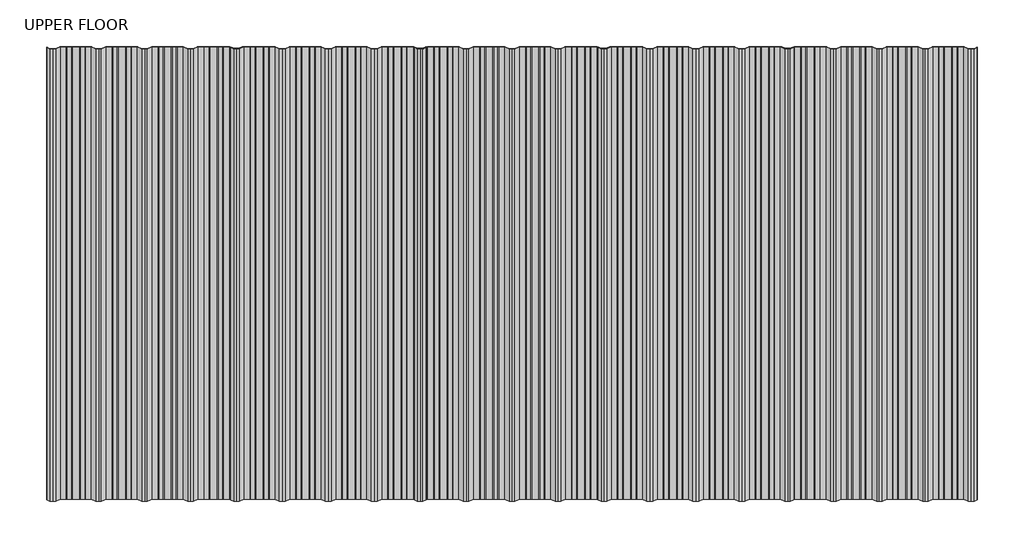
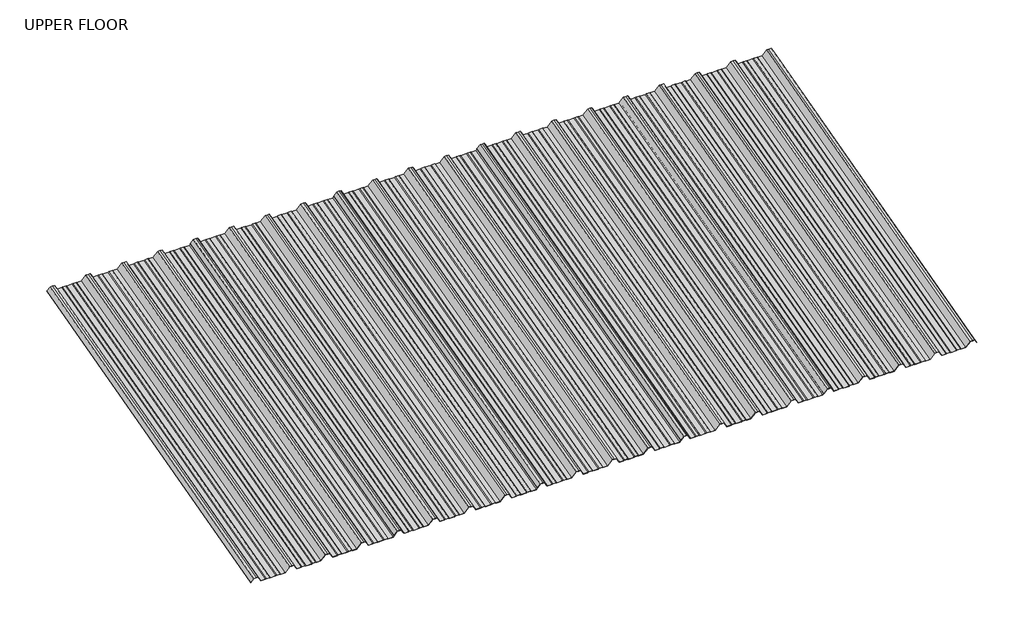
# One storey: 5 beams.
"""IFC4 building model written with IfcOpenShell, lengths in millimetres."""

import ifcopenshell
import ifcopenshell.guid

model = None  # the IFC model being written
_history = None  # IfcOwnerHistory: only IFC2X3 demands one
_inside = {}  # id of a spatial element -> (the spatial element, [elements in it])
_under = {}  # id of a project, library or spatial element -> (it, [spatial elements below it])
_declared = {}  # id of a project -> (the project, [libraries it declares])
_typed = {}  # id of a type object -> (the type object, [elements of that type])
_made_of = {}  # id of a material, layer set ... -> (it, [elements and type objects made of it])


def new_model(schema):
    """Start an empty IFC model of exactly this schema.

    Asked for "IFC4X3", IfcOpenShell would pick the latest addendum, in which some entities
    have other attributes; the version numbers below select the first issue.
    IFC2X3 requires an IfcOwnerHistory on every rooted entity: one is made here for all.
    """
    global model, _history
    if schema == "IFC4X3":
        model = ifcopenshell.file(schema_version=(4, 3, 0, 0))
    else:
        model = ifcopenshell.file(schema=schema)
    _inside.clear()
    _under.clear()
    _declared.clear()
    _typed.clear()
    _made_of.clear()
    _history = None
    if model.schema == "IFC2X3":
        org = make("IfcOrganization", Name="unknown")
        user = make(
            "IfcPersonAndOrganization",
            ThePerson=make("IfcPerson", FamilyName="unknown"),
            TheOrganization=org,
        )
        app = make(
            "IfcApplication",
            ApplicationDeveloper=org,
            Version="unknown",
            ApplicationFullName="unknown",
            ApplicationIdentifier="unknown",
        )
        _history = make(
            "IfcOwnerHistory",
            OwningUser=user,
            OwningApplication=app,
            ChangeAction="ADDED",
            CreationDate=0,
        )
    return model


def make(cls, **values):
    """One entity of the class cls with the attributes given. An attribute that is None is left unset."""
    return model.create_entity(
        cls, **{name: value for name, value in values.items() if value is not None}
    )


def rooted(cls, **values):
    """An entity with a GlobalId (a new one), such as an element, a storey or a relation."""
    return make(cls, GlobalId=ifcopenshell.guid.new(), OwnerHistory=_history, **values)


def si_unit(unit_type, name, prefix=None):
    """IfcSIUnit, for example si_unit("LENGTHUNIT", "METRE", prefix="MILLI")."""
    return make("IfcSIUnit", UnitType=unit_type, Prefix=prefix, Name=name)


def assignment(units):
    """IfcUnitAssignment: the units of a project."""
    return None if units is None else make("IfcUnitAssignment", Units=units)


def point(xyz):
    """IfcCartesianPoint."""
    return None if xyz is None else make("IfcCartesianPoint", Coordinates=xyz)


def direction(xyz):
    """IfcDirection."""
    return None if xyz is None else make("IfcDirection", DirectionRatios=xyz)


def frame(location, z_axis=None, x_axis=None):
    """IfcAxis2Placement3D, a coordinate frame: its origin and axes. An axis left out is left unset."""
    return make(
        "IfcAxis2Placement3D",
        Location=point(location),
        Axis=direction(z_axis),
        RefDirection=direction(x_axis),
    )


def frame_2d(location, x_axis=None):
    """IfcAxis2Placement2D, a coordinate frame in the plane: its origin and x axis."""
    return make(
        "IfcAxis2Placement2D", Location=point(location), RefDirection=direction(x_axis)
    )


def origin():
    """The frame at (0, 0, 0) with its axes left unset."""
    return frame((0.0, 0.0, 0.0))


def place(relative_to, where):
    """IfcLocalPlacement: puts the frame where relative to a parent placement (None: the world)."""
    return make(
        "IfcLocalPlacement", PlacementRelTo=relative_to, RelativePlacement=where
    )


def context(
    kind, dimensions, precision=None, world=None, true_north=None, identifier=None
):
    """IfcGeometricRepresentationContext, for example the 3D "Model" context."""
    return make(
        "IfcGeometricRepresentationContext",
        ContextIdentifier=identifier,
        ContextType=kind,
        CoordinateSpaceDimension=dimensions,
        Precision=precision,
        WorldCoordinateSystem=world,
        TrueNorth=true_north,
    )


def project(units=None, contexts=None):
    """IfcProject with its units and contexts."""
    return rooted(
        "IfcProject",
        Name="project",
        RepresentationContexts=contexts,
        UnitsInContext=assignment(units),
    )


def spatial(cls, under=None, at=None, **own):
    """A site, building, storey or space (cls), placed at a placement, below another one or the project."""
    s = rooted(cls, ObjectPlacement=at, **own)
    if under is not None:
        _under.setdefault(under.id(), (under, []))[1].append(s)
    return s


def polyline(points):
    """IfcPolyline through the points."""
    return make("IfcPolyline", Points=[point(p) for p in points])


def circle_curve(where, radius):
    """IfcCircle in the frame where."""
    return make("IfcCircle", Position=where, Radius=radius)


def trimmed(basis, trim1, trim2, sense, master):
    """IfcTrimmedCurve: the piece of a basis curve between two trims."""
    return make(
        "IfcTrimmedCurve",
        BasisCurve=basis,
        Trim1=trim1,
        Trim2=trim2,
        SenseAgreement=sense,
        MasterRepresentation=master,
    )


def segment(curve, same_sense, transition):
    """IfcCompositeCurveSegment."""
    return make(
        "IfcCompositeCurveSegment",
        Transition=transition,
        SameSense=same_sense,
        ParentCurve=curve,
    )


def composite_curve(segments, self_intersect=None):
    """IfcCompositeCurve: segments joined end to end."""
    return make("IfcCompositeCurve", Segments=segments, SelfIntersect=self_intersect)


def outline(outer, holes=None, kind="AREA"):
    """IfcArbitraryClosedProfileDef: a profile drawn as a closed curve; with holes, ...WithVoids."""
    if holes is None:
        return make("IfcArbitraryClosedProfileDef", ProfileType=kind, OuterCurve=outer)
    return make(
        "IfcArbitraryProfileDefWithVoids",
        ProfileType=kind,
        OuterCurve=outer,
        InnerCurves=holes,
    )


def extrude(swept, where, along, depth):
    """IfcExtrudedAreaSolid: the profile swept, set in the frame where, extruded along a direction by depth."""
    return make(
        "IfcExtrudedAreaSolid",
        SweptArea=swept,
        Position=where,
        ExtrudedDirection=direction(along),
        Depth=depth,
    )


def shape(context_of_items, identifier, shape_type, items):
    """IfcShapeRepresentation: the items that make up one representation, for example the "Body"."""
    return make(
        "IfcShapeRepresentation",
        ContextOfItems=context_of_items,
        RepresentationIdentifier=identifier,
        RepresentationType=shape_type,
        Items=items,
    )


def source(mapping_origin, context_of_items, identifier, shape_type, items):
    """IfcRepresentationMap: a shape defined once, which mapped items show again and again."""
    return make(
        "IfcRepresentationMap",
        MappingOrigin=mapping_origin,
        MappedRepresentation=shape(context_of_items, identifier, shape_type, items),
    )


def transform(
    local_origin,
    x_axis=None,
    y_axis=None,
    z_axis=None,
    scale=None,
    scale2=None,
    scale3=None,
    uniform=True,
):
    """IfcCartesianTransformationOperator3D, or its non-uniform kind. x_axis, y_axis, z_axis: its Axis1, 2, 3."""
    if uniform:
        return make(
            "IfcCartesianTransformationOperator3D",
            Axis1=direction(x_axis),
            Axis2=direction(y_axis),
            LocalOrigin=point(local_origin),
            Scale=scale,
            Axis3=direction(z_axis),
        )
    return make(
        "IfcCartesianTransformationOperator3DnonUniform",
        Axis1=direction(x_axis),
        Axis2=direction(y_axis),
        LocalOrigin=point(local_origin),
        Scale=scale,
        Axis3=direction(z_axis),
        Scale2=scale2,
        Scale3=scale3,
    )


def mapped(mapping_source, mapping_target):
    """IfcMappedItem: shows the shape of a source again, moved by a transform."""
    return make(
        "IfcMappedItem", MappingSource=mapping_source, MappingTarget=mapping_target
    )


def made_of(thing, what):
    """Note that an element or type object is made of a material, layer set ...; save() writes the relation."""
    if what is not None:
        _made_of.setdefault(what.id(), (what, []))[1].append(thing)
    return thing


def element(
    cls,
    number,
    at=None,
    inside=None,
    cuts=None,
    type_object=None,
    material=None,
    context=None,
    identifier="Body",
    shape_type=None,
    held_by="IfcProductDefinitionShape",
    body=None,
    shapes=None,
    **own,
):
    """One element of the class cls, such as IfcWall. Its Tag is "e" and its number.

    at: its placement. inside: the storey or other place that contains it. cuts: it is an
    opening in that element (IfcRelVoidsElement). A single representation is given by context,
    identifier, shape_type and body (its items); several are given by shapes. held_by: the class
    of the entity that holds the representations. save() writes the other relations.
    """
    e = rooted(cls, Tag="e%d" % number, ObjectPlacement=at, **own)
    if body is not None:
        shapes = [shape(context, identifier, shape_type, body)]
    if shapes is not None:
        e.Representation = make(held_by, Representations=shapes)
    if inside is not None:
        _inside.setdefault(inside.id(), (inside, []))[1].append(e)
    if cuts is not None:
        rooted(
            "IfcRelVoidsElement", RelatingBuildingElement=cuts, RelatedOpeningElement=e
        )
    if type_object is not None:
        _typed.setdefault(type_object.id(), (type_object, []))[1].append(e)
    return made_of(e, material)


def aggregate(whole, parts):
    """IfcRelAggregates: a whole, such as a stair, and the parts it consists of."""
    return rooted("IfcRelAggregates", RelatingObject=whole, RelatedObjects=parts)


def save(model, path):
    """Write the relations noted so far, then the file.

    IfcRelAggregates (storeys below a building ...), IfcRelContainedInSpatialStructure (elements
    in a storey), IfcRelDefinesByType, IfcRelAssociatesMaterial and IfcRelDeclares: one each for
    every whole, place, type object, material and project.
    """
    for whole, parts in _under.values():
        aggregate(whole, parts)
    for where, things in _inside.values():
        rooted(
            "IfcRelContainedInSpatialStructure",
            RelatedElements=things,
            RelatingStructure=where,
        )
    for kind, things in _typed.values():
        rooted("IfcRelDefinesByType", RelatedObjects=things, RelatingType=kind)
    for what, things in _made_of.values():
        rooted("IfcRelAssociatesMaterial", RelatedObjects=things, RelatingMaterial=what)
    for by, libraries in _declared.values():
        rooted("IfcRelDeclares", RelatingContext=by, RelatedDefinitions=libraries)
    model.write(path)


def mc700_85815ef7(model_context):
    return source(origin(), model_context, "Body", "SweptSolid", [
        extrude(outline(composite_curve([segment(polyline([(-29.07451, -24.7896475), (-11.0, 6.2103525), (0.0, 6.2103525), (11.0, 6.2103525), (23.5921889, -15.3867949)]), True, "CONTINUOUS"), segment(trimmed(circle_curve(frame_2d((23.160246, -15.6386387)), 0.5), [point((23.5921889, -15.3867949))], [point((22.728303, -15.8904825))], False, "CARTESIAN"), True, "CONTINUOUS"), segment(polyline([(22.728303, -15.8904825), (10.4254884, 5.2103525), (0.0, 5.2103525), (-10.4254884, 5.2103525), (-28.4999984, -25.7896475), (-51.197636, -25.7896475), (-54.4126802, -23.7494212), (-70.8406714, -23.7494212), (-75.2209891, -25.7896475), (-102.2790109, -25.7896475), (-106.6593286, -23.7494212), (-123.0873198, -23.7494212), (-126.302364, -25.7896475), (-149.0000016, -25.7896475), (-167.0745116, 5.2103525), (-177.5, 5.2103525), (-187.9254884, 5.2103525), (-205.9999984, -25.7896475), (-228.697636, -25.7896475), (-231.9126802, -23.7494212), (-248.3406714, -23.7494212), (-252.7209891, -25.7896475), (-279.7790109, -25.7896475), (-284.1593286, -23.7494212), (-300.5873198, -23.7494212), (-303.802364, -25.7896475), (-326.5000016, -25.7896475), (-344.5745116, 5.2103525), (-355.0, 5.2103525), (-365.4254884, 5.2103525), (-383.4999984, -25.7896475), (-406.197636, -25.7896475), (-409.4126802, -23.7494212), (-425.8406714, -23.7494212), (-430.2209891, -25.7896475), (-457.2790109, -25.7896475), (-461.6593286, -23.7494212), (-478.0873198, -23.7494212), (-481.302364, -25.7896475), (-504.0000016, -25.7896475), (-522.0745116, 5.2103525), (-532.5, 5.2103525), (-542.9254884, 5.2103525), (-560.9999984, -25.7896475), (-583.697636, -25.7896475), (-586.9126802, -23.7494212), (-603.3406714, -23.7494212), (-607.7209891, -25.7896475), (-634.7790109, -25.7896475), (-639.1593286, -23.7494212), (-655.5873198, -23.7494212), (-658.802364, -25.7896475), (-681.5000016, -25.7896475), (-699.5745116, 5.2103525), (-710.0, 5.2103525), (-720.4254884, 5.2103525), (-732.728303, -15.8904825)]), True, "CONTINUOUS"), segment(trimmed(circle_curve(frame_2d((-733.160246, -15.6386387)), 0.5), [point((-732.728303, -15.8904825))], [point((-733.5921889, -15.3867949))], False, "CARTESIAN"), True, "CONTINUOUS"), segment(polyline([(-733.5921889, -15.3867949), (-721.0, 6.2103525), (-710.0, 6.2103525), (-699.0, 6.2103525), (-680.92549, -24.7896475), (-659.0928785, -24.7896475), (-655.8778343, -22.7494212), (-638.9378651, -22.7494212), (-634.5575473, -24.7896475), (-607.9424527, -24.7896475), (-603.5621349, -22.7494212), (-586.6221657, -22.7494212), (-583.4071215, -24.7896475), (-561.57451, -24.7896475), (-543.5, 6.2103525), (-532.5, 6.2103525), (-521.5, 6.2103525), (-503.42549, -24.7896475), (-481.5928785, -24.7896475), (-478.3778343, -22.7494212), (-461.4378651, -22.7494212), (-457.0575473, -24.7896475), (-430.4424527, -24.7896475), (-426.0621349, -22.7494212), (-409.1221657, -22.7494212), (-405.9071215, -24.7896475), (-384.07451, -24.7896475), (-366.0, 6.2103525), (-355.0, 6.2103525), (-344.0, 6.2103525), (-325.92549, -24.7896475), (-304.0928785, -24.7896475), (-300.8778343, -22.7494212), (-283.9378651, -22.7494212), (-279.5575473, -24.7896475), (-252.9424527, -24.7896475), (-248.5621349, -22.7494212), (-231.6221657, -22.7494212), (-228.4071215, -24.7896475), (-206.57451, -24.7896475), (-188.5, 6.2103525), (-177.5, 6.2103525), (-166.5, 6.2103525), (-148.42549, -24.7896475), (-126.5928785, -24.7896475), (-123.3778343, -22.7494212), (-106.4378651, -22.7494212), (-102.0575473, -24.7896475), (-75.4424527, -24.7896475), (-71.0621349, -22.7494212), (-54.1221657, -22.7494212), (-50.9071215, -24.7896475), (-29.07451, -24.7896475)]), True, "CONTINUOUS")], self_intersect=False)), frame((-905.0, 0.0, 0.0), z_axis=(1.0, 0.0, 0.0), x_axis=(0.0, 1.0, 0.0)), (0.0, 0.0, 1.0), 1810.0),
    ])


def mc700_2e5cd101(model_context):
    return source(origin(), model_context, "Body", "SweptSolid", [
        extrude(outline(composite_curve([segment(polyline([(279.7790109, -25.7896475), (252.7209891, -25.7896475), (248.3406714, -23.7494212), (231.9126802, -23.7494212), (228.697636, -25.7896475), (205.9999984, -25.7896475), (187.9254884, 5.2103525), (177.5, 5.2103525), (167.0745116, 5.2103525), (149.0000016, -25.7896475), (126.302364, -25.7896475), (123.0873198, -23.7494212), (106.6593286, -23.7494212), (102.2790109, -25.7896475), (75.2209891, -25.7896475), (70.8406714, -23.7494212), (54.4126802, -23.7494212), (51.197636, -25.7896475), (26.1848779, -25.7896475), (9.2764653, 3.2103525), (-9.2764653, 3.2103525), (-23.4326067, -21.0691651)]), True, "CONTINUOUS"), segment(trimmed(circle_curve(frame_2d((-23.8645497, -20.8173214)), 0.5), [point((-23.4326067, -21.0691651))], [point((-24.2964926, -20.5654776))], False, "CARTESIAN"), True, "CONTINUOUS"), segment(polyline([(-24.2964926, -20.5654776), (-9.8509769, 4.2103525), (9.8509769, 4.2103525), (26.7593894, -24.7896475), (50.9071215, -24.7896475), (54.1221657, -22.7494212), (71.0621349, -22.7494212), (75.4424527, -24.7896475), (102.0575473, -24.7896475), (106.4378651, -22.7494212), (123.3778343, -22.7494212), (126.5928785, -24.7896475), (148.42549, -24.7896475), (166.5, 6.2103525), (177.5, 6.2103525), (188.5, 6.2103525), (206.57451, -24.7896475), (228.4071215, -24.7896475), (231.6221657, -22.7494212), (248.5621349, -22.7494212), (252.9424527, -24.7896475), (279.5575473, -24.7896475), (283.9378651, -22.7494212), (300.8778343, -22.7494212), (304.0928785, -24.7896475), (325.92549, -24.7896475), (344.0, 6.2103525), (355.0, 6.2103525), (366.0, 6.2103525), (384.07451, -24.7896475), (405.9071215, -24.7896475), (409.1221657, -22.7494212), (426.0621349, -22.7494212), (430.4424527, -24.7896475), (457.0575473, -24.7896475), (461.4378651, -22.7494212), (478.3778343, -22.7494212), (481.5928785, -24.7896475), (503.42549, -24.7896475), (521.5, 6.2103525), (532.5, 6.2103525), (543.5, 6.2103525), (561.57451, -24.7896475), (583.4071215, -24.7896475), (586.6221657, -22.7494212), (603.5621349, -22.7494212), (607.9424527, -24.7896475), (634.5575473, -24.7896475), (638.9378651, -22.7494212), (655.8778343, -22.7494212), (659.0928785, -24.7896475), (680.92549, -24.7896475), (699.0, 6.2103525), (710.0, 6.2103525), (721.0, 6.2103525), (733.5921889, -15.3867949)]), True, "CONTINUOUS"), segment(trimmed(circle_curve(frame_2d((733.160246, -15.6386387)), 0.5), [point((733.5921889, -15.3867949))], [point((732.728303, -15.8904825))], False, "CARTESIAN"), True, "CONTINUOUS"), segment(polyline([(732.728303, -15.8904825), (720.4254884, 5.2103525), (710.0, 5.2103525), (699.5745116, 5.2103525), (681.5000016, -25.7896475), (658.802364, -25.7896475), (655.5873198, -23.7494212), (639.1593286, -23.7494212), (634.7790109, -25.7896475), (607.7209891, -25.7896475), (603.3406714, -23.7494212), (586.9126802, -23.7494212), (583.697636, -25.7896475), (560.9999984, -25.7896475), (542.9254884, 5.2103525), (532.5, 5.2103525), (522.0745116, 5.2103525), (504.0000016, -25.7896475), (481.302364, -25.7896475), (478.0873198, -23.7494212), (461.6593286, -23.7494212), (457.2790109, -25.7896475), (430.2209891, -25.7896475), (425.8406714, -23.7494212), (409.4126802, -23.7494212), (406.197636, -25.7896475), (383.4999984, -25.7896475), (365.4254884, 5.2103525), (355.0, 5.2103525), (344.5745116, 5.2103525), (326.5000016, -25.7896475), (303.802364, -25.7896475), (300.5873198, -23.7494212), (284.1593286, -23.7494212), (279.7790109, -25.7896475)]), True, "CONTINUOUS")], self_intersect=False)), frame((-905.0, 0.0, 0.0), z_axis=(1.0, 0.0, 0.0), x_axis=(0.0, 1.0, 0.0)), (0.0, 0.0, 1.0), 1810.0),
    ])


def mc700_c5d29af6(model_context):
    return source(origin(), model_context, "Body", "SweptSolid", [
        extrude(outline(composite_curve([segment(polyline([(-279.7790109, -25.7896475), (-284.1593286, -23.7494212), (-300.5873198, -23.7494212), (-303.802364, -25.7896475), (-326.5000016, -25.7896475), (-344.5745116, 5.2103525), (-355.0, 5.2103525), (-365.4254884, 5.2103525), (-383.4999984, -25.7896475), (-406.197636, -25.7896475), (-409.4126802, -23.7494212), (-425.8406714, -23.7494212), (-430.2209891, -25.7896475), (-457.2790109, -25.7896475), (-461.6593286, -23.7494212), (-478.0873198, -23.7494212), (-481.302364, -25.7896475), (-504.0000016, -25.7896475), (-522.0745116, 5.2103525), (-532.5, 5.2103525), (-542.9254884, 5.2103525), (-560.9999984, -25.7896475), (-583.697636, -25.7896475), (-586.9126802, -23.7494212), (-603.3406714, -23.7494212), (-607.7209891, -25.7896475), (-634.7790109, -25.7896475), (-639.1593286, -23.7494212), (-655.5873198, -23.7494212), (-658.802364, -25.7896475), (-681.5000016, -25.7896475), (-699.5745116, 5.2103525), (-710.0, 5.2103525), (-720.4254884, 5.2103525), (-732.728303, -15.8904825)]), True, "CONTINUOUS"), segment(trimmed(circle_curve(frame_2d((-733.160246, -15.6386387)), 0.5), [point((-732.728303, -15.8904825))], [point((-733.5921889, -15.3867949))], False, "CARTESIAN"), True, "CONTINUOUS"), segment(polyline([(-733.5921889, -15.3867949), (-721.0, 6.2103525), (-710.0, 6.2103525), (-699.0, 6.2103525), (-680.92549, -24.7896475), (-659.0928785, -24.7896475), (-655.8778343, -22.7494212), (-638.9378651, -22.7494212), (-634.5575473, -24.7896475), (-607.9424527, -24.7896475), (-603.5621349, -22.7494212), (-586.6221657, -22.7494212), (-583.4071215, -24.7896475), (-561.57451, -24.7896475), (-543.5, 6.2103525), (-532.5, 6.2103525), (-521.5, 6.2103525), (-503.42549, -24.7896475), (-481.5928785, -24.7896475), (-478.3778343, -22.7494212), (-461.4378651, -22.7494212), (-457.0575473, -24.7896475), (-430.4424527, -24.7896475), (-426.0621349, -22.7494212), (-409.1221657, -22.7494212), (-405.9071215, -24.7896475), (-384.07451, -24.7896475), (-366.0, 6.2103525), (-355.0, 6.2103525), (-344.0, 6.2103525), (-325.92549, -24.7896475), (-304.0928785, -24.7896475), (-300.8778343, -22.7494212), (-283.9378651, -22.7494212), (-279.5575473, -24.7896475), (-252.9424527, -24.7896475), (-248.5621349, -22.7494212), (-231.6221657, -22.7494212), (-228.4071215, -24.7896475), (-206.57451, -24.7896475), (-188.5, 6.2103525), (-177.5, 6.2103525), (-166.5, 6.2103525), (-148.42549, -24.7896475), (-126.5928785, -24.7896475), (-123.3778343, -22.7494212), (-106.4378651, -22.7494212), (-102.0575473, -24.7896475), (-75.4424527, -24.7896475), (-71.0621349, -22.7494212), (-54.1221657, -22.7494212), (-50.9071215, -24.7896475), (-26.7593894, -24.7896475), (-9.8509769, 4.2103525), (9.8509769, 4.2103525), (24.2964926, -20.5654776)]), True, "CONTINUOUS"), segment(trimmed(circle_curve(frame_2d((23.8645497, -20.8173214)), 0.5), [point((24.2964926, -20.5654776))], [point((23.4326067, -21.0691651))], False, "CARTESIAN"), True, "CONTINUOUS"), segment(polyline([(23.4326067, -21.0691651), (9.2764653, 3.2103525), (-9.2764653, 3.2103525), (-26.1848779, -25.7896475), (-51.197636, -25.7896475), (-54.4126802, -23.7494212), (-70.8406714, -23.7494212), (-75.2209891, -25.7896475), (-102.2790109, -25.7896475), (-106.6593286, -23.7494212), (-123.0873198, -23.7494212), (-126.302364, -25.7896475), (-149.0000016, -25.7896475), (-167.0745116, 5.2103525), (-177.5, 5.2103525), (-187.9254884, 5.2103525), (-205.9999984, -25.7896475), (-228.697636, -25.7896475), (-231.9126802, -23.7494212), (-248.3406714, -23.7494212), (-252.7209891, -25.7896475), (-279.7790109, -25.7896475)]), True, "CONTINUOUS")], self_intersect=False)), frame((-905.0, 0.0, 0.0), z_axis=(1.0, 0.0, 0.0), x_axis=(0.0, 1.0, 0.0)), (0.0, 0.0, 1.0), 1810.0),
    ])


model = new_model("IFC4")

# Units and contexts
model_context = context("Model", 3, world=origin())
ifc_project = project(units=[si_unit("LENGTHUNIT", "METRE", prefix="MILLI")], contexts=[model_context])

# Site, building, storey
site = spatial("IfcSite", under=ifc_project)
building = spatial("IfcBuilding", under=site)
storey = spatial("IfcBuildingStorey", under=building, Name="UPPER FLOOR", Elevation=2700.0)

# Beams
placement = place(None, origin())
mc700_shape = mc700_85815ef7(model_context)
element("IfcBeam", 1, ObjectType="3D_Metalcraft MC700_Translucent : MC700", at=placement, inside=storey, context=model_context, shape_type="MappedRepresentation", body=[
    mapped(mc700_shape, transform((-7243.1309808, -11016.9567587, 1580.4815218), x_axis=(0.0, -0.9659258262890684, -0.25881904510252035), y_axis=(1.0000000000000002, 0.0, 0.0), z_axis=(0.0, -0.2588190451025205, 0.9659258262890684))),
])
mc700_2_shape = mc700_2e5cd101(model_context)
element("IfcBeam", 2, ObjectType="3D_Metalcraft MC700 : MC700", at=placement, inside=storey, context=model_context, shape_type="MappedRepresentation", body=[
    mapped(mc700_2_shape, transform((-7243.1309808, -11016.9567588, 1580.4815222), x_axis=(0.0, -0.9659258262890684, -0.25881904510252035), y_axis=(1.0000000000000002, 0.0, 0.0), z_axis=(0.0, -0.2588190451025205, 0.9659258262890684))),
])
mc700_3_shape = mc700_c5d29af6(model_context)
element("IfcBeam", 3, ObjectType="3D_Metalcraft MC700 : MC700", at=placement, inside=storey, context=model_context, shape_type="MappedRepresentation", body=[
    mapped(mc700_3_shape, transform((-7953.1309808, -11016.9567587, 1580.4815218), x_axis=(0.0, -0.9659258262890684, -0.25881904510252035), y_axis=(1.0000000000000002, 0.0, 0.0), z_axis=(0.0, -0.2588190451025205, 0.9659258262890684))),
])
element("IfcBeam", 4, ObjectType="3D_Metalcraft MC700 : MC700", at=placement, inside=storey, context=model_context, shape_type="MappedRepresentation", body=[
    mapped(mc700_3_shape, transform((-8663.1309808, -11016.9567587, 1580.4815218), x_axis=(0.0, -0.9659258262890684, -0.25881904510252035), y_axis=(1.0000000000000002, 0.0, 0.0), z_axis=(0.0, -0.2588190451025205, 0.9659258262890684))),
])
element("IfcBeam", 5, ObjectType="3D_Metalcraft MC700 : MC700", at=placement, inside=storey, context=model_context, shape_type="MappedRepresentation", body=[
    mapped(mc700_3_shape, transform((-9373.1309808, -11016.9567587, 1580.4815218), x_axis=(0.0, -0.9659258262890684, -0.25881904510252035), y_axis=(1.0000000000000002, 0.0, 0.0), z_axis=(0.0, -0.2588190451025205, 0.9659258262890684))),
])

save(model, "model.ifc")
